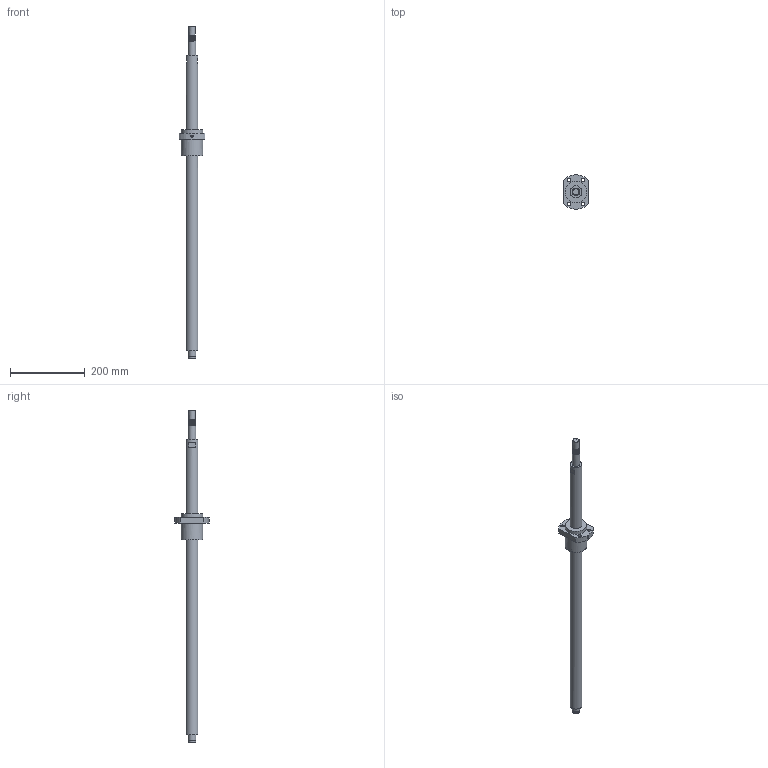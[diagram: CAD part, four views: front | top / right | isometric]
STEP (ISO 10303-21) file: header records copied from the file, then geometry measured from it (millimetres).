
FILE_DESCRIPTION(/* description */ (''),/* implementation_level */ '2;1');
FILE_NAME(/* name */ 'BSG465_asm1.stp',/* time_stamp */ '2017-01-14T09:26:06+08:00',/* author */ (''),/* organization */ (''),/* preprocessor_version */ 'ST-DEVELOPER v15',/* originating_system */ 'SIEMENS PLM Software NX 8.5',/* authorisation */ '');
FILE_SCHEMA (('AUTOMOTIVE_DESIGN { 1 0 10303 214 3 1 1 1 }'));
Length unit declared in the file: millimetre
Products named in the file (3): 01; BSG465; BSG465_asm1
Assembly tree (2 placements, depth 2):
  BSG465_asm1
    BSG465
    01
Bounding box: 68 x 92 x 890 mm (x, y, z)
Volume: 832750.9 mm3; surface area: 120759.6 mm2
Topology: 2 solids, 2 shells, 72 faces, 185 edges, 126 vertices
Faces by surface type: plane 41, cylinder 29, bspline 2
Full cylindrical faces by diameter (mm): 4.5 x4, 5 x1, 6 x1, 9 x4, 17 x1, 19 x1, 20 x8, 32 x2, 58 x2
Entity records: 3391 total; most frequent: CARTESIAN_POINT 1865, DIRECTION 310, ORIENTED_EDGE 260, EDGE_CURVE 130, AXIS2_PLACEMENT_3D 125, EDGE_LOOP 107, VERTEX_POINT 97, FACE_BOUND 71
